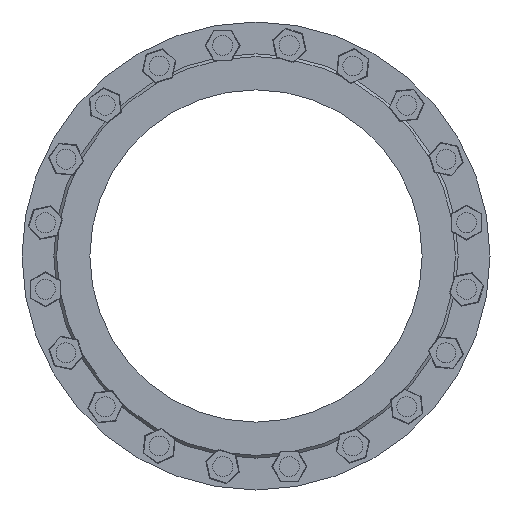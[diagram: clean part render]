
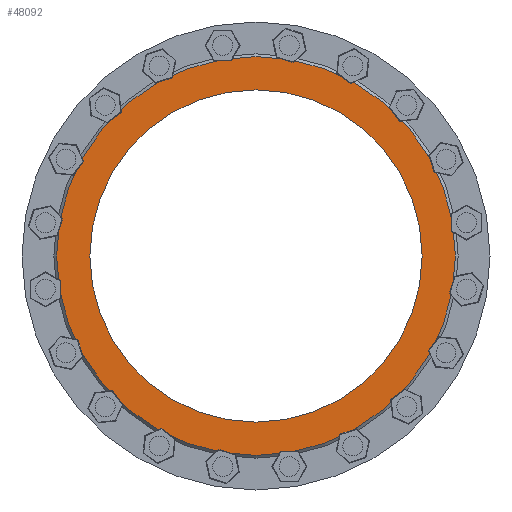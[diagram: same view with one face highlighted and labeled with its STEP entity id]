
A CAD part, left-side view. The second image highlights one B-rep face of the part: STEP entity #48092.
In plain terms, the highlighted planar face has unit normal (-1, 0, 0).
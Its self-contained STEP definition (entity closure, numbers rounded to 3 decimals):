
#1001 = CARTESIAN_POINT ( 'NONE',  ( 0., 0., 0. ) ) ;
#2358 = CARTESIAN_POINT ( 'NONE',  ( 0., 0., 300. ) ) ;
#7047 = AXIS2_PLACEMENT_3D ( 'NONE', #1001, #18335, #13434 ) ;
#7556 = CARTESIAN_POINT ( 'NONE',  ( 0., 0., 360. ) ) ;
#8389 = FACE_BOUND ( 'NONE', #48690, .T. ) ;
#10128 = ORIENTED_EDGE ( 'NONE', *, *, #11965, .T. ) ;
#11965 = EDGE_CURVE ( 'NONE', #48298, #48298, #35652, .T. ) ;
#13434 = DIRECTION ( 'NONE',  ( 0., 0., 1. ) ) ;
#18335 = DIRECTION ( 'NONE',  ( -1., 0., 0. ) ) ;
#18526 = AXIS2_PLACEMENT_3D ( 'NONE', #20506, #30343, #29187 ) ;
#18955 = ORIENTED_EDGE ( 'NONE', *, *, #49896, .F. ) ;
#20506 = CARTESIAN_POINT ( 'NONE',  ( 0., 0., 0. ) ) ;
#29187 = DIRECTION ( 'NONE',  ( 0., 0., -1. ) ) ;
#30343 = DIRECTION ( 'NONE',  ( 1., 0., 0. ) ) ;
#31725 = AXIS2_PLACEMENT_3D ( 'NONE', #50198, #45848, #33114 ) ;
#33114 = DIRECTION ( 'NONE',  ( 0., 0., 1. ) ) ;
#34664 = FACE_OUTER_BOUND ( 'NONE', #36244, .T. ) ;
#35652 = CIRCLE ( 'NONE', #7047, 360. ) ;
#36244 = EDGE_LOOP ( 'NONE', ( #10128 ) ) ;
#38183 = CIRCLE ( 'NONE', #31725, 300. ) ;
#41940 = VERTEX_POINT ( 'NONE', #2358 ) ;
#45848 = DIRECTION ( 'NONE',  ( -1., 0., 0. ) ) ;
#47401 = PLANE ( 'NONE',  #18526 ) ;
#48092 = ADVANCED_FACE ( 'NONE', ( #8389, #34664 ), #47401, .F. ) ;
#48298 = VERTEX_POINT ( 'NONE', #7556 ) ;
#48690 = EDGE_LOOP ( 'NONE', ( #18955 ) ) ;
#49896 = EDGE_CURVE ( 'NONE', #41940, #41940, #38183, .T. ) ;
#50198 = CARTESIAN_POINT ( 'NONE',  ( 0., 0., 0. ) ) ;
